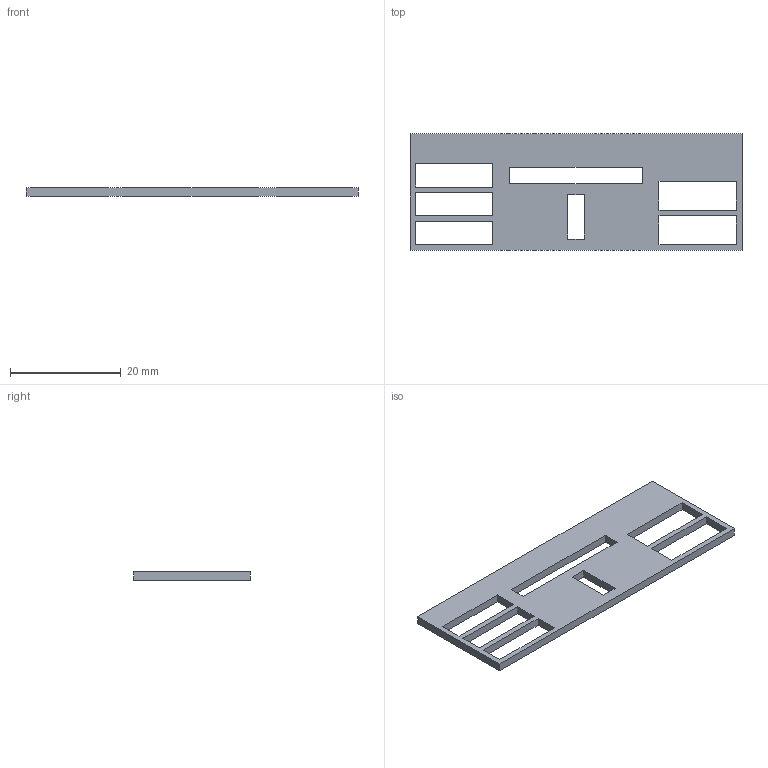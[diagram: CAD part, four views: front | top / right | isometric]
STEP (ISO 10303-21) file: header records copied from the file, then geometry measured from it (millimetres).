
FILE_DESCRIPTION(('FreeCAD Model'),'2;1');
FILE_NAME('Open CASCADE Shape Model','2023-06-15T14:49:07',(''),(''), 'Open CASCADE STEP processor 7.6','FreeCAD','Unknown');
FILE_SCHEMA(('AUTOMOTIVE_DESIGN { 1 0 10303 214 1 1 1 1 }'));
Length unit declared in the file: millimetre
Products named in the file (1): Apidea-Doppelabsperrgitter
Bounding box: 60 x 21 x 1.5 mm (x, y, z)
Volume: 1263 mm3; surface area: 2320 mm2
Topology: 1 solids, 1 shells, 34 faces, 96 edges, 64 vertices
Faces by surface type: plane 34
Entity records: 2378 total; most frequent: CARTESIAN_POINT 387, DIRECTION 358, LINE 288, VECTOR 288, ORIENTED_EDGE 192, PCURVE 192, DEFINITIONAL_REPRESENTATION 192, EDGE_CURVE 96
